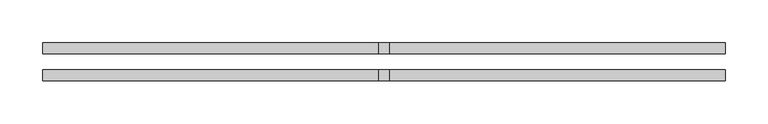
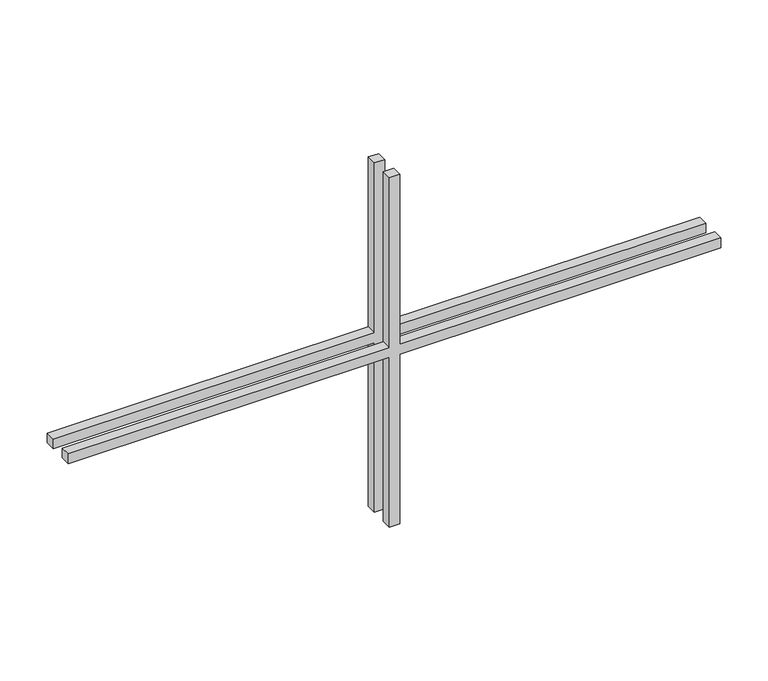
"""IFC4 building model written with IfcOpenShell, lengths in millimetres: proxy geometry, M_Patrón de montante secundario_2x2 : M_Patrón de montante secundario_2x2."""

from ifc_helpers import new_model, si_unit, frame, origin, place, context, project, spatial, polyline, outline, extrude, source, transform, mapped, element, save


def generic_models_dbf21484(model_context):
    return source(origin(), model_context, "Body", "SweptSolid", [
        extrude(outline(polyline([(232.1375, -6.35), (232.1375, -398.8), (219.4375, -398.8), (219.4375, -6.35), (0.0, -6.35), (0.0, 6.35), (219.4375, 6.35), (219.4375, 398.8), (232.1375, 398.8), (232.1375, 6.35), (451.575, 6.35), (451.575, -6.35), (232.1375, -6.35)])), frame((0.0, 9.525, 0.0), z_axis=(0.0, 1.0, 0.0), x_axis=(0.0, 0.0, 1.0)), (0.0, 0.0, 1.0), 12.7),
        extrude(outline(polyline([(232.1375, -6.35), (232.1375, -398.8), (219.4375, -398.8), (219.4375, -6.35), (0.0, -6.35), (0.0, 6.35), (219.4375, 6.35), (219.4375, 398.8), (232.1375, 398.8), (232.1375, 6.35), (451.575, 6.35), (451.575, -6.35), (232.1375, -6.35)])), frame((0.0, -22.225, 0.0), z_axis=(0.0, 1.0, 0.0), x_axis=(0.0, 0.0, 1.0)), (0.0, 0.0, 1.0), 12.7),
    ])


if __name__ == "__main__":
    model = new_model("IFC4")
    model_context = context("Model", 3, world=origin())
    ifc_project = project(units=[si_unit("LENGTHUNIT", "METRE", prefix="MILLI")], contexts=[model_context])
    site = spatial("IfcSite", under=ifc_project)
    building = spatial("IfcBuilding", under=site)
    placement = place(None, origin())
    generic_models_shape = generic_models_dbf21484(model_context)
    element("IfcBuildingElementProxy", 1, Name="M_Patrón de montante secundario_2x2 : M_Patrón de montante secundario_2x2", ObjectType="M_Patrón de montante secundario_2x2 : M_Patrón de montante secundario_2x2", at=placement, inside=building, context=model_context, shape_type="MappedRepresentation", body=[
        mapped(generic_models_shape, transform((0.0, 0.0, 0.0), x_axis=(1.0, 0.0, 0.0), y_axis=(0.0, 1.0, 0.0), z_axis=(0.0, 0.0, 1.0))),
    ])
    save(model, "model.ifc")
